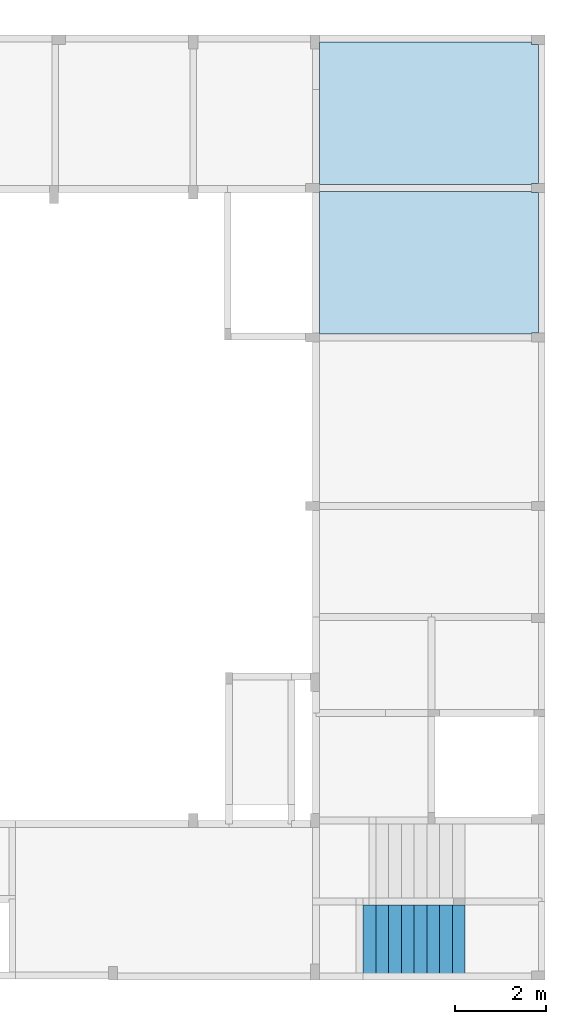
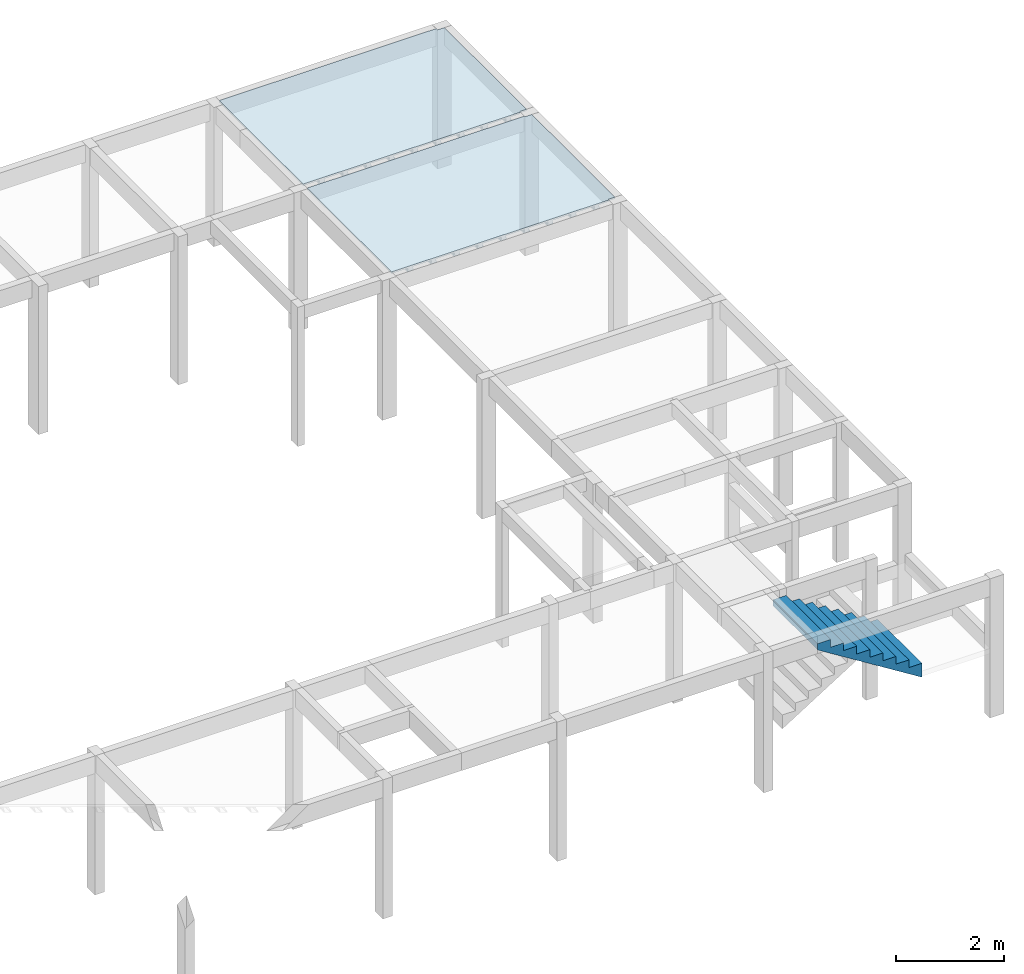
# One storey, part 10 of 11: 2 slabs, 1 stair flight.
"""IFC4 building model written with IfcOpenShell, lengths in centimetres."""

from ifc_helpers import new_model, si_unit, derived_unit, frame, origin_with_axes, place, context, project, spatial, polyline, outline, extrude, faceted_brep, material, element, save


model = new_model("IFC4")

# Units and contexts
model_context = context("Model", 3, precision=1e-05, world=origin_with_axes(), identifier="Body")
ifc_project = project(units=[si_unit("LENGTHUNIT", "METRE", prefix="CENTI"), si_unit("VOLUMEUNIT", "CUBIC_METRE"), si_unit("AREAUNIT", "SQUARE_METRE"), si_unit("POWERUNIT", "WATT"), si_unit("LUMINOUSFLUXUNIT", "LUMEN"), si_unit("ELECTRICCURRENTUNIT", "AMPERE"), si_unit("PRESSUREUNIT", "PASCAL", prefix="KILO"), si_unit("MASSUNIT", "GRAM", prefix="KILO"), si_unit("PLANEANGLEUNIT", "RADIAN"), derived_unit("VOLUMETRICFLOWRATEUNIT", [(si_unit("LENGTHUNIT", "METRE"), 3), (si_unit("TIMEUNIT", "SECOND"), -1)])], contexts=[model_context])

# Site, building, storey
site_placement = place(None, origin_with_axes())
site = spatial("IfcSite", under=ifc_project, at=site_placement)
building_placement = place(site_placement, frame((0.0, 0.0, -295.0)))
building = spatial("IfcBuilding", under=site, at=building_placement)
placement_1 = place(building_placement, origin_with_axes())
placement_2 = place(placement_1, frame((0.0, 0.0, 101.0), z_axis=(0.0, 0.0, 1.0), x_axis=(1.0, 0.0, 0.0)))
placement_3 = place(placement_2, frame((0.0, 0.0, 204.0), z_axis=(0.0, 0.0, 1.0), x_axis=(1.0, 0.0, 0.0)))
storey_placement = place(placement_3, frame((0.0, 0.0, 292.0), z_axis=(0.0, 0.0, 1.0), x_axis=(1.0, 0.0, 0.0)))
storey = spatial("IfcBuildingStorey", under=building, at=storey_placement, Name="PAVTO 01", CompositionType="ELEMENT", Elevation=302.0)

# Slabs
ifc_material = material(Name="Concreto")
slab_1_placement = place(storey_placement, frame((3761.23, -5275.87, 0.0), z_axis=(0.0, 0.0, 1.0), x_axis=(1.0, 0.0, 0.0)))
element("IfcSlab", 1, at=slab_1_placement, inside=storey, material=ifc_material, Name="L105", PredefinedType="FLOOR", context=model_context, shape_type="SolidModel", body=[
    extrude(outline(polyline([(225.509, -153.819), (240.519, -153.819), (240.519, 151.319), (225.53, 151.319), (225.529, 156.319), (-240.499, 156.32), (-240.499, 52.319), (-240.519, -156.319), (225.51, -156.32), (225.509, -153.819), (225.509, -153.819)])), frame((0.0, 0.0, -4.0), z_axis=(0.0, 0.0, 1.0), x_axis=(1.0, 0.0, 0.0)), (0.0, 0.0, 1.0), 4.0),
    faceted_brep([(-5.0, -156.3195, -12.0), (-5.0, 156.3195, -12.0), (5.0, 156.3195, -12.0), (5.0, -156.3195, -12.0), (5.0, -156.3195, -4.0), (5.0, 156.3195, -4.0), (-5.0, 156.3195, -4.0), (-5.0, -156.3195, -4.0)], [[[0, 1, 2, 3]], [[4, 5, 6, 7]], [[4, 3, 5]], [[3, 2, 5]], [[5, 2, 6]], [[2, 1, 6]], [[6, 1, 7]], [[1, 0, 7]], [[7, 0, 4]], [[0, 3, 4]]]),
    faceted_brep([(-6.5, -156.3195, -12.0), (-6.5, 156.3195, -12.0), (-5.0, 156.3195, -12.0), (-5.0, -156.3195, -12.0), (-5.0, -156.3195, -9.0), (-5.0, 156.3195, -9.0), (-6.5, 156.3195, -9.0), (-6.5, -156.3195, -9.0)], [[[0, 1, 2, 3]], [[4, 5, 6, 7]], [[4, 3, 5]], [[3, 2, 5]], [[5, 2, 6]], [[2, 1, 6]], [[6, 1, 7]], [[1, 0, 7]], [[7, 0, 4]], [[0, 3, 4]]]),
    faceted_brep([(5.0, -156.3195, -12.0), (5.0, 156.3195, -12.0), (6.5, 156.3195, -12.0), (6.5, -156.3195, -12.0), (6.5, -156.3195, -9.0), (6.5, 156.3195, -9.0), (5.0, 156.3195, -9.0), (5.0, -156.3195, -9.0)], [[[0, 1, 2, 3]], [[4, 5, 6, 7]], [[4, 3, 5]], [[3, 2, 5]], [[5, 2, 6]], [[2, 1, 6]], [[6, 1, 7]], [[1, 0, 7]], [[7, 0, 4]], [[0, 3, 4]]]),
    faceted_brep([(-55.0, -156.3195, -12.0), (-55.0, 156.3195, -12.0), (-45.0, 156.3195, -12.0), (-45.0, -156.3195, -12.0), (-45.0, -156.3195, -4.0), (-45.0, 156.3195, -4.0), (-55.0, 156.3195, -4.0), (-55.0, -156.3195, -4.0)], [[[0, 1, 2, 3]], [[4, 5, 6, 7]], [[4, 3, 5]], [[3, 2, 5]], [[5, 2, 6]], [[2, 1, 6]], [[6, 1, 7]], [[1, 0, 7]], [[7, 0, 4]], [[0, 3, 4]]]),
    faceted_brep([(-56.5, -156.3195, -12.0), (-56.5, 156.3195, -12.0), (-55.0, 156.3195, -12.0), (-55.0, -156.3195, -12.0), (-55.0, -156.3195, -9.0), (-55.0, 156.3195, -9.0), (-56.5, 156.3195, -9.0), (-56.5, -156.3195, -9.0)], [[[0, 1, 2, 3]], [[4, 5, 6, 7]], [[4, 3, 5]], [[3, 2, 5]], [[5, 2, 6]], [[2, 1, 6]], [[6, 1, 7]], [[1, 0, 7]], [[7, 0, 4]], [[0, 3, 4]]]),
    faceted_brep([(-45.0, -156.3195, -12.0), (-45.0, 156.3195, -12.0), (-43.5, 156.3195, -12.0), (-43.5, -156.3195, -12.0), (-43.5, -156.3195, -9.0), (-43.5, 156.3195, -9.0), (-45.0, 156.3195, -9.0), (-45.0, -156.3195, -9.0)], [[[0, 1, 2, 3]], [[4, 5, 6, 7]], [[4, 3, 5]], [[3, 2, 5]], [[5, 2, 6]], [[2, 1, 6]], [[6, 1, 7]], [[1, 0, 7]], [[7, 0, 4]], [[0, 3, 4]]]),
    faceted_brep([(-105.0, -156.3195, -12.0), (-105.0, 156.3195, -12.0), (-95.0, 156.3195, -12.0), (-95.0, -156.3195, -12.0), (-95.0, -156.3195, -4.0), (-95.0, 156.3195, -4.0), (-105.0, 156.3195, -4.0), (-105.0, -156.3195, -4.0)], [[[0, 1, 2, 3]], [[4, 5, 6, 7]], [[4, 3, 5]], [[3, 2, 5]], [[5, 2, 6]], [[2, 1, 6]], [[6, 1, 7]], [[1, 0, 7]], [[7, 0, 4]], [[0, 3, 4]]]),
    faceted_brep([(-106.5, -156.3195, -12.0), (-106.5, 156.3195, -12.0), (-105.0, 156.3195, -12.0), (-105.0, -156.3195, -12.0), (-105.0, -156.3195, -9.0), (-105.0, 156.3195, -9.0), (-106.5, 156.3195, -9.0), (-106.5, -156.3195, -9.0)], [[[0, 1, 2, 3]], [[4, 5, 6, 7]], [[4, 3, 5]], [[3, 2, 5]], [[5, 2, 6]], [[2, 1, 6]], [[6, 1, 7]], [[1, 0, 7]], [[7, 0, 4]], [[0, 3, 4]]]),
    faceted_brep([(-95.0, -156.3195, -12.0), (-95.0, 156.3195, -12.0), (-93.5, 156.3195, -12.0), (-93.5, -156.3195, -12.0), (-93.5, -156.3195, -9.0), (-93.5, 156.3195, -9.0), (-95.0, 156.3195, -9.0), (-95.0, -156.3195, -9.0)], [[[0, 1, 2, 3]], [[4, 5, 6, 7]], [[4, 3, 5]], [[3, 2, 5]], [[5, 2, 6]], [[2, 1, 6]], [[6, 1, 7]], [[1, 0, 7]], [[7, 0, 4]], [[0, 3, 4]]]),
    faceted_brep([(-155.0, -156.3195, -12.0), (-155.0, 156.3195, -12.0), (-145.0, 156.3195, -12.0), (-145.0, -156.3195, -12.0), (-145.0, -156.3195, -4.0), (-145.0, 156.3195, -4.0), (-155.0, 156.3195, -4.0), (-155.0, -156.3195, -4.0)], [[[0, 1, 2, 3]], [[4, 5, 6, 7]], [[4, 3, 5]], [[3, 2, 5]], [[5, 2, 6]], [[2, 1, 6]], [[6, 1, 7]], [[1, 0, 7]], [[7, 0, 4]], [[0, 3, 4]]]),
    faceted_brep([(-156.5, -156.3195, -12.0), (-156.5, 156.3195, -12.0), (-155.0, 156.3195, -12.0), (-155.0, -156.3195, -12.0), (-155.0, -156.3195, -9.0), (-155.0, 156.3195, -9.0), (-156.5, 156.3195, -9.0), (-156.5, -156.3195, -9.0)], [[[0, 1, 2, 3]], [[4, 5, 6, 7]], [[4, 3, 5]], [[3, 2, 5]], [[5, 2, 6]], [[2, 1, 6]], [[6, 1, 7]], [[1, 0, 7]], [[7, 0, 4]], [[0, 3, 4]]]),
    faceted_brep([(-145.0, -156.3195, -12.0), (-145.0, 156.3195, -12.0), (-143.5, 156.3195, -12.0), (-143.5, -156.3195, -12.0), (-143.5, -156.3195, -9.0), (-143.5, 156.3195, -9.0), (-145.0, 156.3195, -9.0), (-145.0, -156.3195, -9.0)], [[[0, 1, 2, 3]], [[4, 5, 6, 7]], [[4, 3, 5]], [[3, 2, 5]], [[5, 2, 6]], [[2, 1, 6]], [[6, 1, 7]], [[1, 0, 7]], [[7, 0, 4]], [[0, 3, 4]]]),
    faceted_brep([(-205.0, -156.3195, -12.0), (-205.0, 156.3195, -12.0), (-195.0, 156.3195, -12.0), (-195.0, -156.3195, -12.0), (-195.0, -156.3195, -4.0), (-195.0, 156.3195, -4.0), (-205.0, 156.3195, -4.0), (-205.0, -156.3195, -4.0)], [[[0, 1, 2, 3]], [[4, 5, 6, 7]], [[4, 3, 5]], [[3, 2, 5]], [[5, 2, 6]], [[2, 1, 6]], [[6, 1, 7]], [[1, 0, 7]], [[7, 0, 4]], [[0, 3, 4]]]),
    faceted_brep([(-206.5, -156.3195, -12.0), (-206.5, 156.3195, -12.0), (-205.0, 156.3195, -12.0), (-205.0, -156.3195, -12.0), (-205.0, -156.3195, -9.0), (-205.0, 156.3195, -9.0), (-206.5, 156.3195, -9.0), (-206.5, -156.3195, -9.0)], [[[0, 1, 2, 3]], [[4, 5, 6, 7]], [[4, 3, 5]], [[3, 2, 5]], [[5, 2, 6]], [[2, 1, 6]], [[6, 1, 7]], [[1, 0, 7]], [[7, 0, 4]], [[0, 3, 4]]]),
    faceted_brep([(-195.0, -156.3195, -12.0), (-195.0, 156.3195, -12.0), (-193.5, 156.3195, -12.0), (-193.5, -156.3195, -12.0), (-193.5, -156.3195, -9.0), (-193.5, 156.3195, -9.0), (-195.0, 156.3195, -9.0), (-195.0, -156.3195, -9.0)], [[[0, 1, 2, 3]], [[4, 5, 6, 7]], [[4, 3, 5]], [[3, 2, 5]], [[5, 2, 6]], [[2, 1, 6]], [[6, 1, 7]], [[1, 0, 7]], [[7, 0, 4]], [[0, 3, 4]]]),
    faceted_brep([(45.0, -156.3195, -12.0), (45.0, 156.3195, -12.0), (55.0, 156.3195, -12.0), (55.0, -156.3195, -12.0), (55.0, -156.3195, -4.0), (55.0, 156.3195, -4.0), (45.0, 156.3195, -4.0), (45.0, -156.3195, -4.0)], [[[0, 1, 2, 3]], [[4, 5, 6, 7]], [[4, 3, 5]], [[3, 2, 5]], [[5, 2, 6]], [[2, 1, 6]], [[6, 1, 7]], [[1, 0, 7]], [[7, 0, 4]], [[0, 3, 4]]]),
    faceted_brep([(43.5, -156.3195, -12.0), (43.5, 156.3195, -12.0), (45.0, 156.3195, -12.0), (45.0, -156.3195, -12.0), (45.0, -156.3195, -9.0), (45.0, 156.3195, -9.0), (43.5, 156.3195, -9.0), (43.5, -156.3195, -9.0)], [[[0, 1, 2, 3]], [[4, 5, 6, 7]], [[4, 3, 5]], [[3, 2, 5]], [[5, 2, 6]], [[2, 1, 6]], [[6, 1, 7]], [[1, 0, 7]], [[7, 0, 4]], [[0, 3, 4]]]),
    faceted_brep([(55.0, -156.3195, -12.0), (55.0, 156.3195, -12.0), (56.5, 156.3195, -12.0), (56.5, -156.3195, -12.0), (56.5, -156.3195, -9.0), (56.5, 156.3195, -9.0), (55.0, 156.3195, -9.0), (55.0, -156.3195, -9.0)], [[[0, 1, 2, 3]], [[4, 5, 6, 7]], [[4, 3, 5]], [[3, 2, 5]], [[5, 2, 6]], [[2, 1, 6]], [[6, 1, 7]], [[1, 0, 7]], [[7, 0, 4]], [[0, 3, 4]]]),
    faceted_brep([(95.0, -156.3195, -12.0), (95.0, 156.3195, -12.0), (105.0, 156.3195, -12.0), (105.0, -156.3195, -12.0), (105.0, -156.3195, -4.0), (105.0, 156.3195, -4.0), (95.0, 156.3195, -4.0), (95.0, -156.3195, -4.0)], [[[0, 1, 2, 3]], [[4, 5, 6, 7]], [[4, 3, 5]], [[3, 2, 5]], [[5, 2, 6]], [[2, 1, 6]], [[6, 1, 7]], [[1, 0, 7]], [[7, 0, 4]], [[0, 3, 4]]]),
    faceted_brep([(93.5, -156.3195, -12.0), (93.5, 156.3195, -12.0), (95.0, 156.3195, -12.0), (95.0, -156.3195, -12.0), (95.0, -156.3195, -9.0), (95.0, 156.3195, -9.0), (93.5, 156.3195, -9.0), (93.5, -156.3195, -9.0)], [[[0, 1, 2, 3]], [[4, 5, 6, 7]], [[4, 3, 5]], [[3, 2, 5]], [[5, 2, 6]], [[2, 1, 6]], [[6, 1, 7]], [[1, 0, 7]], [[7, 0, 4]], [[0, 3, 4]]]),
    faceted_brep([(105.0, -156.3195, -12.0), (105.0, 156.3195, -12.0), (106.5, 156.3195, -12.0), (106.5, -156.3195, -12.0), (106.5, -156.3195, -9.0), (106.5, 156.3195, -9.0), (105.0, 156.3195, -9.0), (105.0, -156.3195, -9.0)], [[[0, 1, 2, 3]], [[4, 5, 6, 7]], [[4, 3, 5]], [[3, 2, 5]], [[5, 2, 6]], [[2, 1, 6]], [[6, 1, 7]], [[1, 0, 7]], [[7, 0, 4]], [[0, 3, 4]]]),
    faceted_brep([(145.0, -156.3195, -12.0), (145.0, 156.3195, -12.0), (155.0, 156.3195, -12.0), (155.0, -156.3195, -12.0), (155.0, -156.3195, -4.0), (155.0, 156.3195, -4.0), (145.0, 156.3195, -4.0), (145.0, -156.3195, -4.0)], [[[0, 1, 2, 3]], [[4, 5, 6, 7]], [[4, 3, 5]], [[3, 2, 5]], [[5, 2, 6]], [[2, 1, 6]], [[6, 1, 7]], [[1, 0, 7]], [[7, 0, 4]], [[0, 3, 4]]]),
    faceted_brep([(143.5, -156.3195, -12.0), (143.5, 156.3195, -12.0), (145.0, 156.3195, -12.0), (145.0, -156.3195, -12.0), (145.0, -156.3195, -9.0), (145.0, 156.3195, -9.0), (143.5, 156.3195, -9.0), (143.5, -156.3195, -9.0)], [[[0, 1, 2, 3]], [[4, 5, 6, 7]], [[4, 3, 5]], [[3, 2, 5]], [[5, 2, 6]], [[2, 1, 6]], [[6, 1, 7]], [[1, 0, 7]], [[7, 0, 4]], [[0, 3, 4]]]),
    faceted_brep([(155.0, -156.3195, -12.0), (155.0, 156.3195, -12.0), (156.5, 156.3195, -12.0), (156.5, -156.3195, -12.0), (156.5, -156.3195, -9.0), (156.5, 156.3195, -9.0), (155.0, 156.3195, -9.0), (155.0, -156.3195, -9.0)], [[[0, 1, 2, 3]], [[4, 5, 6, 7]], [[4, 3, 5]], [[3, 2, 5]], [[5, 2, 6]], [[2, 1, 6]], [[6, 1, 7]], [[1, 0, 7]], [[7, 0, 4]], [[0, 3, 4]]]),
    faceted_brep([(195.0, -156.3195, -12.0), (195.0, 156.3195, -12.0), (205.0, 156.3195, -12.0), (205.0, -156.3195, -12.0), (205.0, -156.3195, -4.0), (205.0, 156.3195, -4.0), (195.0, 156.3195, -4.0), (195.0, -156.3195, -4.0)], [[[0, 1, 2, 3]], [[4, 5, 6, 7]], [[4, 3, 5]], [[3, 2, 5]], [[5, 2, 6]], [[2, 1, 6]], [[6, 1, 7]], [[1, 0, 7]], [[7, 0, 4]], [[0, 3, 4]]]),
    faceted_brep([(193.5, -156.3195, -12.0), (193.5, 156.3195, -12.0), (195.0, 156.3195, -12.0), (195.0, -156.3195, -12.0), (195.0, -156.3195, -9.0), (195.0, 156.3195, -9.0), (193.5, 156.3195, -9.0), (193.5, -156.3195, -9.0)], [[[0, 1, 2, 3]], [[4, 5, 6, 7]], [[4, 3, 5]], [[3, 2, 5]], [[5, 2, 6]], [[2, 1, 6]], [[6, 1, 7]], [[1, 0, 7]], [[7, 0, 4]], [[0, 3, 4]]]),
    faceted_brep([(205.0, -156.3195, -12.0), (205.0, 156.3195, -12.0), (206.5, 156.3195, -12.0), (206.5, -156.3195, -12.0), (206.5, -156.3195, -9.0), (206.5, 156.3195, -9.0), (205.0, 156.3195, -9.0), (205.0, -156.3195, -9.0)], [[[0, 1, 2, 3]], [[4, 5, 6, 7]], [[4, 3, 5]], [[3, 2, 5]], [[5, 2, 6]], [[2, 1, 6]], [[6, 1, 7]], [[1, 0, 7]], [[7, 0, 4]], [[0, 3, 4]]]),
])
slab_2_placement = place(storey_placement, frame((3761.2305, -5604.12, 0.0), z_axis=(0.0, 0.0, 1.0), x_axis=(1.0, 0.0, 0.0)))
element("IfcSlab", 2, at=slab_2_placement, inside=storey, material=ifc_material, Name="L106", PredefinedType="FLOOR", context=model_context, shape_type="SolidModel", body=[
    extrude(outline(polyline([(225.53, -154.43), (240.52, -154.43), (240.52, 154.43), (225.509, 154.43), (225.51, 156.929), (-240.519, 156.929), (-240.5, -156.929), (225.53, -156.929), (225.53, -154.43), (225.53, -154.43)])), frame((-0.0005, 0.0, -4.0), z_axis=(0.0, 0.0, 1.0), x_axis=(1.0, 0.0, 0.0)), (0.0, 0.0, 1.0), 4.0),
    faceted_brep([(-5.0005, -156.929, -12.0), (-5.0005, 156.929, -12.0), (4.9995, 156.929, -12.0), (4.9995, -156.929, -12.0), (4.9995, -156.929, -4.0), (4.9995, 156.929, -4.0), (-5.0005, 156.929, -4.0), (-5.0005, -156.929, -4.0)], [[[0, 1, 2, 3]], [[4, 5, 6, 7]], [[4, 3, 5]], [[3, 2, 5]], [[5, 2, 6]], [[2, 1, 6]], [[6, 1, 7]], [[1, 0, 7]], [[7, 0, 4]], [[0, 3, 4]]]),
    faceted_brep([(-6.5005, -156.929, -12.0), (-6.5005, 156.929, -12.0), (-5.0005, 156.929, -12.0), (-5.0005, -156.929, -12.0), (-5.0005, -156.929, -9.0), (-5.0005, 156.929, -9.0), (-6.5005, 156.929, -9.0), (-6.5005, -156.929, -9.0)], [[[0, 1, 2, 3]], [[4, 5, 6, 7]], [[4, 3, 5]], [[3, 2, 5]], [[5, 2, 6]], [[2, 1, 6]], [[6, 1, 7]], [[1, 0, 7]], [[7, 0, 4]], [[0, 3, 4]]]),
    faceted_brep([(4.9995, -156.929, -12.0), (4.9995, 156.929, -12.0), (6.4995, 156.929, -12.0), (6.4995, -156.929, -12.0), (6.4995, -156.929, -9.0), (6.4995, 156.929, -9.0), (4.9995, 156.929, -9.0), (4.9995, -156.929, -9.0)], [[[0, 1, 2, 3]], [[4, 5, 6, 7]], [[4, 3, 5]], [[3, 2, 5]], [[5, 2, 6]], [[2, 1, 6]], [[6, 1, 7]], [[1, 0, 7]], [[7, 0, 4]], [[0, 3, 4]]]),
    faceted_brep([(-55.0005, -156.929, -12.0), (-55.0005, 156.929, -12.0), (-45.0005, 156.929, -12.0), (-45.0005, -156.929, -12.0), (-45.0005, -156.929, -4.0), (-45.0005, 156.929, -4.0), (-55.0005, 156.929, -4.0), (-55.0005, -156.929, -4.0)], [[[0, 1, 2, 3]], [[4, 5, 6, 7]], [[4, 3, 5]], [[3, 2, 5]], [[5, 2, 6]], [[2, 1, 6]], [[6, 1, 7]], [[1, 0, 7]], [[7, 0, 4]], [[0, 3, 4]]]),
    faceted_brep([(-56.5005, -156.929, -12.0), (-56.5005, 156.929, -12.0), (-55.0005, 156.929, -12.0), (-55.0005, -156.929, -12.0), (-55.0005, -156.929, -9.0), (-55.0005, 156.929, -9.0), (-56.5005, 156.929, -9.0), (-56.5005, -156.929, -9.0)], [[[0, 1, 2, 3]], [[4, 5, 6, 7]], [[4, 3, 5]], [[3, 2, 5]], [[5, 2, 6]], [[2, 1, 6]], [[6, 1, 7]], [[1, 0, 7]], [[7, 0, 4]], [[0, 3, 4]]]),
    faceted_brep([(-45.0005, -156.929, -12.0), (-45.0005, 156.929, -12.0), (-43.5005, 156.929, -12.0), (-43.5005, -156.929, -12.0), (-43.5005, -156.929, -9.0), (-43.5005, 156.929, -9.0), (-45.0005, 156.929, -9.0), (-45.0005, -156.929, -9.0)], [[[0, 1, 2, 3]], [[4, 5, 6, 7]], [[4, 3, 5]], [[3, 2, 5]], [[5, 2, 6]], [[2, 1, 6]], [[6, 1, 7]], [[1, 0, 7]], [[7, 0, 4]], [[0, 3, 4]]]),
    faceted_brep([(-105.0005, -156.929, -12.0), (-105.0005, 156.929, -12.0), (-95.0005, 156.929, -12.0), (-95.0005, -156.929, -12.0), (-95.0005, -156.929, -4.0), (-95.0005, 156.929, -4.0), (-105.0005, 156.929, -4.0), (-105.0005, -156.929, -4.0)], [[[0, 1, 2, 3]], [[4, 5, 6, 7]], [[4, 3, 5]], [[3, 2, 5]], [[5, 2, 6]], [[2, 1, 6]], [[6, 1, 7]], [[1, 0, 7]], [[7, 0, 4]], [[0, 3, 4]]]),
    faceted_brep([(-106.5005, -156.929, -12.0), (-106.5005, 156.929, -12.0), (-105.0005, 156.929, -12.0), (-105.0005, -156.929, -12.0), (-105.0005, -156.929, -9.0), (-105.0005, 156.929, -9.0), (-106.5005, 156.929, -9.0), (-106.5005, -156.929, -9.0)], [[[0, 1, 2, 3]], [[4, 5, 6, 7]], [[4, 3, 5]], [[3, 2, 5]], [[5, 2, 6]], [[2, 1, 6]], [[6, 1, 7]], [[1, 0, 7]], [[7, 0, 4]], [[0, 3, 4]]]),
    faceted_brep([(-95.0005, -156.929, -12.0), (-95.0005, 156.929, -12.0), (-93.5005, 156.929, -12.0), (-93.5005, -156.929, -12.0), (-93.5005, -156.929, -9.0), (-93.5005, 156.929, -9.0), (-95.0005, 156.929, -9.0), (-95.0005, -156.929, -9.0)], [[[0, 1, 2, 3]], [[4, 5, 6, 7]], [[4, 3, 5]], [[3, 2, 5]], [[5, 2, 6]], [[2, 1, 6]], [[6, 1, 7]], [[1, 0, 7]], [[7, 0, 4]], [[0, 3, 4]]]),
    faceted_brep([(-155.0005, -156.929, -12.0), (-155.0005, 156.929, -12.0), (-145.0005, 156.929, -12.0), (-145.0005, -156.929, -12.0), (-145.0005, -156.929, -4.0), (-145.0005, 156.929, -4.0), (-155.0005, 156.929, -4.0), (-155.0005, -156.929, -4.0)], [[[0, 1, 2, 3]], [[4, 5, 6, 7]], [[4, 3, 5]], [[3, 2, 5]], [[5, 2, 6]], [[2, 1, 6]], [[6, 1, 7]], [[1, 0, 7]], [[7, 0, 4]], [[0, 3, 4]]]),
    faceted_brep([(-156.5005, -156.929, -12.0), (-156.5005, 156.929, -12.0), (-155.0005, 156.929, -12.0), (-155.0005, -156.929, -12.0), (-155.0005, -156.929, -9.0), (-155.0005, 156.929, -9.0), (-156.5005, 156.929, -9.0), (-156.5005, -156.929, -9.0)], [[[0, 1, 2, 3]], [[4, 5, 6, 7]], [[4, 3, 5]], [[3, 2, 5]], [[5, 2, 6]], [[2, 1, 6]], [[6, 1, 7]], [[1, 0, 7]], [[7, 0, 4]], [[0, 3, 4]]]),
    faceted_brep([(-145.0005, -156.929, -12.0), (-145.0005, 156.929, -12.0), (-143.5005, 156.929, -12.0), (-143.5005, -156.929, -12.0), (-143.5005, -156.929, -9.0), (-143.5005, 156.929, -9.0), (-145.0005, 156.929, -9.0), (-145.0005, -156.929, -9.0)], [[[0, 1, 2, 3]], [[4, 5, 6, 7]], [[4, 3, 5]], [[3, 2, 5]], [[5, 2, 6]], [[2, 1, 6]], [[6, 1, 7]], [[1, 0, 7]], [[7, 0, 4]], [[0, 3, 4]]]),
    faceted_brep([(-205.0005, -156.929, -12.0), (-205.0005, 156.929, -12.0), (-195.0005, 156.929, -12.0), (-195.0005, -156.929, -12.0), (-195.0005, -156.929, -4.0), (-195.0005, 156.929, -4.0), (-205.0005, 156.929, -4.0), (-205.0005, -156.929, -4.0)], [[[0, 1, 2, 3]], [[4, 5, 6, 7]], [[4, 3, 5]], [[3, 2, 5]], [[5, 2, 6]], [[2, 1, 6]], [[6, 1, 7]], [[1, 0, 7]], [[7, 0, 4]], [[0, 3, 4]]]),
    faceted_brep([(-206.5005, -156.929, -12.0), (-206.5005, 156.929, -12.0), (-205.0005, 156.929, -12.0), (-205.0005, -156.929, -12.0), (-205.0005, -156.929, -9.0), (-205.0005, 156.929, -9.0), (-206.5005, 156.929, -9.0), (-206.5005, -156.929, -9.0)], [[[0, 1, 2, 3]], [[4, 5, 6, 7]], [[4, 3, 5]], [[3, 2, 5]], [[5, 2, 6]], [[2, 1, 6]], [[6, 1, 7]], [[1, 0, 7]], [[7, 0, 4]], [[0, 3, 4]]]),
    faceted_brep([(-195.0005, -156.929, -12.0), (-195.0005, 156.929, -12.0), (-193.5005, 156.929, -12.0), (-193.5005, -156.929, -12.0), (-193.5005, -156.929, -9.0), (-193.5005, 156.929, -9.0), (-195.0005, 156.929, -9.0), (-195.0005, -156.929, -9.0)], [[[0, 1, 2, 3]], [[4, 5, 6, 7]], [[4, 3, 5]], [[3, 2, 5]], [[5, 2, 6]], [[2, 1, 6]], [[6, 1, 7]], [[1, 0, 7]], [[7, 0, 4]], [[0, 3, 4]]]),
    faceted_brep([(44.9995, -156.929, -12.0), (44.9995, 156.929, -12.0), (54.9995, 156.929, -12.0), (54.9995, -156.929, -12.0), (54.9995, -156.929, -4.0), (54.9995, 156.929, -4.0), (44.9995, 156.929, -4.0), (44.9995, -156.929, -4.0)], [[[0, 1, 2, 3]], [[4, 5, 6, 7]], [[4, 3, 5]], [[3, 2, 5]], [[5, 2, 6]], [[2, 1, 6]], [[6, 1, 7]], [[1, 0, 7]], [[7, 0, 4]], [[0, 3, 4]]]),
    faceted_brep([(43.4995, -156.929, -12.0), (43.4995, 156.929, -12.0), (44.9995, 156.929, -12.0), (44.9995, -156.929, -12.0), (44.9995, -156.929, -9.0), (44.9995, 156.929, -9.0), (43.4995, 156.929, -9.0), (43.4995, -156.929, -9.0)], [[[0, 1, 2, 3]], [[4, 5, 6, 7]], [[4, 3, 5]], [[3, 2, 5]], [[5, 2, 6]], [[2, 1, 6]], [[6, 1, 7]], [[1, 0, 7]], [[7, 0, 4]], [[0, 3, 4]]]),
    faceted_brep([(54.9995, -156.929, -12.0), (54.9995, 156.929, -12.0), (56.4995, 156.929, -12.0), (56.4995, -156.929, -12.0), (56.4995, -156.929, -9.0), (56.4995, 156.929, -9.0), (54.9995, 156.929, -9.0), (54.9995, -156.929, -9.0)], [[[0, 1, 2, 3]], [[4, 5, 6, 7]], [[4, 3, 5]], [[3, 2, 5]], [[5, 2, 6]], [[2, 1, 6]], [[6, 1, 7]], [[1, 0, 7]], [[7, 0, 4]], [[0, 3, 4]]]),
    faceted_brep([(94.9995, -156.929, -12.0), (94.9995, 156.929, -12.0), (104.9995, 156.929, -12.0), (104.9995, -156.929, -12.0), (104.9995, -156.929, -4.0), (104.9995, 156.929, -4.0), (94.9995, 156.929, -4.0), (94.9995, -156.929, -4.0)], [[[0, 1, 2, 3]], [[4, 5, 6, 7]], [[4, 3, 5]], [[3, 2, 5]], [[5, 2, 6]], [[2, 1, 6]], [[6, 1, 7]], [[1, 0, 7]], [[7, 0, 4]], [[0, 3, 4]]]),
    faceted_brep([(93.4995, -156.929, -12.0), (93.4995, 156.929, -12.0), (94.9995, 156.929, -12.0), (94.9995, -156.929, -12.0), (94.9995, -156.929, -9.0), (94.9995, 156.929, -9.0), (93.4995, 156.929, -9.0), (93.4995, -156.929, -9.0)], [[[0, 1, 2, 3]], [[4, 5, 6, 7]], [[4, 3, 5]], [[3, 2, 5]], [[5, 2, 6]], [[2, 1, 6]], [[6, 1, 7]], [[1, 0, 7]], [[7, 0, 4]], [[0, 3, 4]]]),
    faceted_brep([(104.9995, -156.929, -12.0), (104.9995, 156.929, -12.0), (106.4995, 156.929, -12.0), (106.4995, -156.929, -12.0), (106.4995, -156.929, -9.0), (106.4995, 156.929, -9.0), (104.9995, 156.929, -9.0), (104.9995, -156.929, -9.0)], [[[0, 1, 2, 3]], [[4, 5, 6, 7]], [[4, 3, 5]], [[3, 2, 5]], [[5, 2, 6]], [[2, 1, 6]], [[6, 1, 7]], [[1, 0, 7]], [[7, 0, 4]], [[0, 3, 4]]]),
    faceted_brep([(144.9995, -156.929, -12.0), (144.9995, 156.929, -12.0), (154.9995, 156.929, -12.0), (154.9995, -156.929, -12.0), (154.9995, -156.929, -4.0), (154.9995, 156.929, -4.0), (144.9995, 156.929, -4.0), (144.9995, -156.929, -4.0)], [[[0, 1, 2, 3]], [[4, 5, 6, 7]], [[4, 3, 5]], [[3, 2, 5]], [[5, 2, 6]], [[2, 1, 6]], [[6, 1, 7]], [[1, 0, 7]], [[7, 0, 4]], [[0, 3, 4]]]),
    faceted_brep([(143.4995, -156.929, -12.0), (143.4995, 156.929, -12.0), (144.9995, 156.929, -12.0), (144.9995, -156.929, -12.0), (144.9995, -156.929, -9.0), (144.9995, 156.929, -9.0), (143.4995, 156.929, -9.0), (143.4995, -156.929, -9.0)], [[[0, 1, 2, 3]], [[4, 5, 6, 7]], [[4, 3, 5]], [[3, 2, 5]], [[5, 2, 6]], [[2, 1, 6]], [[6, 1, 7]], [[1, 0, 7]], [[7, 0, 4]], [[0, 3, 4]]]),
    faceted_brep([(154.9995, -156.929, -12.0), (154.9995, 156.929, -12.0), (156.4995, 156.929, -12.0), (156.4995, -156.929, -12.0), (156.4995, -156.929, -9.0), (156.4995, 156.929, -9.0), (154.9995, 156.929, -9.0), (154.9995, -156.929, -9.0)], [[[0, 1, 2, 3]], [[4, 5, 6, 7]], [[4, 3, 5]], [[3, 2, 5]], [[5, 2, 6]], [[2, 1, 6]], [[6, 1, 7]], [[1, 0, 7]], [[7, 0, 4]], [[0, 3, 4]]]),
    faceted_brep([(194.9995, -156.929, -12.0), (194.9995, 156.929, -12.0), (204.9995, 156.929, -12.0), (204.9995, -156.929, -12.0), (204.9995, -156.929, -4.0), (204.9995, 156.929, -4.0), (194.9995, 156.929, -4.0), (194.9995, -156.929, -4.0)], [[[0, 1, 2, 3]], [[4, 5, 6, 7]], [[4, 3, 5]], [[3, 2, 5]], [[5, 2, 6]], [[2, 1, 6]], [[6, 1, 7]], [[1, 0, 7]], [[7, 0, 4]], [[0, 3, 4]]]),
    faceted_brep([(193.4995, -156.929, -12.0), (193.4995, 156.929, -12.0), (194.9995, 156.929, -12.0), (194.9995, -156.929, -12.0), (194.9995, -156.929, -9.0), (194.9995, 156.929, -9.0), (193.4995, 156.929, -9.0), (193.4995, -156.929, -9.0)], [[[0, 1, 2, 3]], [[4, 5, 6, 7]], [[4, 3, 5]], [[3, 2, 5]], [[5, 2, 6]], [[2, 1, 6]], [[6, 1, 7]], [[1, 0, 7]], [[7, 0, 4]], [[0, 3, 4]]]),
    faceted_brep([(204.9995, -156.929, -12.0), (204.9995, 156.929, -12.0), (206.4995, 156.929, -12.0), (206.4995, -156.929, -12.0), (206.4995, -156.929, -9.0), (206.4995, 156.929, -9.0), (204.9995, 156.929, -9.0), (204.9995, -156.929, -9.0)], [[[0, 1, 2, 3]], [[4, 5, 6, 7]], [[4, 3, 5]], [[3, 2, 5]], [[5, 2, 6]], [[2, 1, 6]], [[6, 1, 7]], [[1, 0, 7]], [[7, 0, 4]], [[0, 3, 4]]]),
])

# Stair flight
stair_flight_placement = place(storey_placement, frame((3728.59, -7096.81, -17.55), z_axis=(0.0, 0.0, 1.0), x_axis=(1.0, 0.0, 0.0)))
element("IfcStairFlight", 3, at=stair_flight_placement, inside=storey, material=ifc_material, Name="LE2", NumberOfRisers=0, NumberOfTreads=0, context=model_context, shape_type="Brep", body=[
    faceted_brep([(-112.0, -82.5, 0.0), (-84.0, -82.5, 0.0), (-84.0, 82.5, 0.0), (-112.0, 82.5, 0.0), (-84.0, -82.5, -31.71234047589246), (-112.0, -82.5, -14.16234047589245), (-112.0, 82.5, -14.16234047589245), (-84.0, 82.5, -31.71234047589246), (-112.0, -82.5, -14.16234047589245), (-112.0, -82.5, 0.0), (-112.0, 82.5, 0.0), (-112.0, 82.5, -14.16234047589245), (-84.0, -82.5, 0.0), (-84.0, -82.5, -31.71234047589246), (-84.0, 82.5, -31.71234047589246), (-84.0, 82.5, 0.0), (-84.0, 82.5, -31.71234047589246), (-112.0, 82.5, -14.16234047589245), (-112.0, 82.5, 0.0), (-84.0, 82.5, 0.0), (-84.0, -82.5, -31.71234047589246), (-84.0, -82.5, 0.0), (-112.0, -82.5, 0.0), (-112.0, -82.5, -14.16234047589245), (-84.0, -82.5, -17.55), (-56.0, -82.5, -17.55), (-56.0, 82.5, -17.55), (-84.0, 82.5, -17.55), (-56.0, -82.5, -49.2623404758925), (-84.0, -82.5, -31.71234047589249), (-84.0, 82.5, -31.71234047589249), (-56.0, 82.5, -49.2623404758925), (-84.0, -82.5, -31.71234047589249), (-84.0, -82.5, -17.55), (-84.0, 82.5, -17.55), (-84.0, 82.5, -31.71234047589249), (-56.0, -82.5, -17.55), (-56.0, -82.5, -49.2623404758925), (-56.0, 82.5, -49.2623404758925), (-56.0, 82.5, -17.55), (-56.0, 82.5, -49.2623404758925), (-84.0, 82.5, -31.71234047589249), (-84.0, 82.5, -17.55), (-56.0, 82.5, -17.55), (-56.0, -82.5, -49.2623404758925), (-56.0, -82.5, -17.55), (-84.0, -82.5, -17.55), (-84.0, -82.5, -31.71234047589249), (-56.0, -82.5, -35.1), (-28.0, -82.5, -35.1), (-28.0, 82.5, -35.1), (-56.0, 82.5, -35.1), (-28.0, -82.5, -66.81234047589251), (-56.0, -82.5, -49.2623404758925), (-56.0, 82.5, -49.2623404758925), (-28.0, 82.5, -66.81234047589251), (-56.0, -82.5, -49.2623404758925), (-56.0, -82.5, -35.1), (-56.0, 82.5, -35.1), (-56.0, 82.5, -49.2623404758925), (-28.0, -82.5, -35.1), (-28.0, -82.5, -66.81234047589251), (-28.0, 82.5, -66.81234047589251), (-28.0, 82.5, -35.1), (-28.0, 82.5, -66.81234047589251), (-56.0, 82.5, -49.2623404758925), (-56.0, 82.5, -35.1), (-28.0, 82.5, -35.1), (-28.0, -82.5, -66.81234047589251), (-28.0, -82.5, -35.1), (-56.0, -82.5, -35.1), (-56.0, -82.5, -49.2623404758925), (-28.0, -82.5, -52.65), (0.0, -82.5, -52.65), (0.0, 82.5, -52.65), (-28.0, 82.5, -52.65), (0.0, -82.5, -84.36234047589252), (-28.0, -82.5, -66.81234047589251), (-28.0, 82.5, -66.81234047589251), (0.0, 82.5, -84.36234047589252), (-28.0, -82.5, -66.81234047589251), (-28.0, -82.5, -52.65), (-28.0, 82.5, -52.65), (-28.0, 82.5, -66.81234047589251), (0.0, -82.5, -52.65), (0.0, -82.5, -84.36234047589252), (0.0, 82.5, -84.36234047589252), (0.0, 82.5, -52.65), (0.0, 82.5, -84.36234047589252), (-28.0, 82.5, -66.81234047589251), (-28.0, 82.5, -52.65), (0.0, 82.5, -52.65), (0.0, -82.5, -84.36234047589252), (0.0, -82.5, -52.65), (-28.0, -82.5, -52.65), (-28.0, -82.5, -66.81234047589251), (0.0, -82.5, -70.2), (28.0, -82.5, -70.2), (28.0, 82.5, -70.2), (0.0, 82.5, -70.2), (28.0, -82.5, -101.91234047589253), (0.0, -82.5, -84.36234047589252), (0.0, 82.5, -84.36234047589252), (28.0, 82.5, -101.91234047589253), (0.0, -82.5, -84.36234047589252), (0.0, -82.5, -70.2), (0.0, 82.5, -70.2), (0.0, 82.5, -84.36234047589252), (28.0, -82.5, -70.2), (28.0, -82.5, -101.91234047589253), (28.0, 82.5, -101.91234047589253), (28.0, 82.5, -70.2), (28.0, 82.5, -101.91234047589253), (0.0, 82.5, -84.36234047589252), (0.0, 82.5, -70.2), (28.0, 82.5, -70.2), (28.0, -82.5, -101.91234047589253), (28.0, -82.5, -70.2), (0.0, -82.5, -70.2), (0.0, -82.5, -84.36234047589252), (28.0, -82.5, -87.75), (56.0, -82.5, -87.75), (56.0, 82.5, -87.75), (28.0, 82.5, -87.75), (56.0, -82.5, -119.46234047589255), (28.0, -82.5, -101.91234047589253), (28.0, 82.5, -101.91234047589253), (56.0, 82.5, -119.46234047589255), (28.0, -82.5, -101.91234047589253), (28.0, -82.5, -87.75), (28.0, 82.5, -87.75), (28.0, 82.5, -101.91234047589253), (56.0, -82.5, -87.75), (56.0, -82.5, -119.46234047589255), (56.0, 82.5, -119.46234047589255), (56.0, 82.5, -87.75), (56.0, 82.5, -119.46234047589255), (28.0, 82.5, -101.91234047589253), (28.0, 82.5, -87.75), (56.0, 82.5, -87.75), (56.0, -82.5, -119.46234047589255), (56.0, -82.5, -87.75), (28.0, -82.5, -87.75), (28.0, -82.5, -101.91234047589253), (56.0, -82.5, -105.3), (84.0, -82.5, -105.3), (84.0, 82.5, -105.3), (56.0, 82.5, -105.3), (84.0, -82.5, -137.01234047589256), (56.0, -82.5, -119.46234047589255), (56.0, 82.5, -119.46234047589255), (84.0, 82.5, -137.01234047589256), (56.0, -82.5, -119.46234047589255), (56.0, -82.5, -105.3), (56.0, 82.5, -105.3), (56.0, 82.5, -119.46234047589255), (84.0, -82.5, -105.3), (84.0, -82.5, -137.01234047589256), (84.0, 82.5, -137.01234047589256), (84.0, 82.5, -105.3), (84.0, 82.5, -137.01234047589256), (56.0, 82.5, -119.46234047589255), (56.0, 82.5, -105.3), (84.0, 82.5, -105.3), (84.0, -82.5, -137.01234047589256), (84.0, -82.5, -105.3), (56.0, -82.5, -105.3), (56.0, -82.5, -119.46234047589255), (84.0, -82.5, -122.85), (112.0, -82.5, -122.85), (112.0, 82.5, -122.85), (84.0, 82.5, -122.85), (112.0, -82.5, -154.56234047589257), (84.0, -82.5, -137.01234047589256), (84.0, 82.5, -137.01234047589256), (112.0, 82.5, -154.56234047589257), (84.0, -82.5, -137.01234047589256), (84.0, -82.5, -122.85), (84.0, 82.5, -122.85), (84.0, 82.5, -137.01234047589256), (112.0, -82.5, -122.85), (112.0, -82.5, -154.56234047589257), (112.0, 82.5, -154.56234047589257), (112.0, 82.5, -122.85), (112.0, 82.5, -154.56234047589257), (84.0, 82.5, -137.01234047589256), (84.0, 82.5, -122.85), (112.0, 82.5, -122.85), (112.0, -82.5, -154.56234047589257), (112.0, -82.5, -122.85), (84.0, -82.5, -122.85), (84.0, -82.5, -137.01234047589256)], [[[0, 1, 2, 3]], [[4, 5, 6, 7]], [[8, 9, 10, 11]], [[12, 13, 14, 15]], [[16, 17, 18, 19]], [[20, 21, 22, 23]], [[24, 25, 26, 27]], [[28, 29, 30, 31]], [[32, 33, 34, 35]], [[36, 37, 38, 39]], [[40, 41, 42, 43]], [[44, 45, 46, 47]], [[48, 49, 50, 51]], [[52, 53, 54, 55]], [[56, 57, 58, 59]], [[60, 61, 62, 63]], [[64, 65, 66, 67]], [[68, 69, 70, 71]], [[72, 73, 74, 75]], [[76, 77, 78, 79]], [[80, 81, 82, 83]], [[84, 85, 86, 87]], [[88, 89, 90, 91]], [[92, 93, 94, 95]], [[96, 97, 98, 99]], [[100, 101, 102, 103]], [[104, 105, 106, 107]], [[108, 109, 110, 111]], [[112, 113, 114, 115]], [[116, 117, 118, 119]], [[120, 121, 122, 123]], [[124, 125, 126, 127]], [[128, 129, 130, 131]], [[132, 133, 134, 135]], [[136, 137, 138, 139]], [[140, 141, 142, 143]], [[144, 145, 146, 147]], [[148, 149, 150, 151]], [[152, 153, 154, 155]], [[156, 157, 158, 159]], [[160, 161, 162, 163]], [[164, 165, 166, 167]], [[168, 169, 170, 171]], [[172, 173, 174, 175]], [[176, 177, 178, 179]], [[180, 181, 182, 183]], [[184, 185, 186, 187]], [[188, 189, 190, 191]]]),
])

save(model, "model.ifc")
